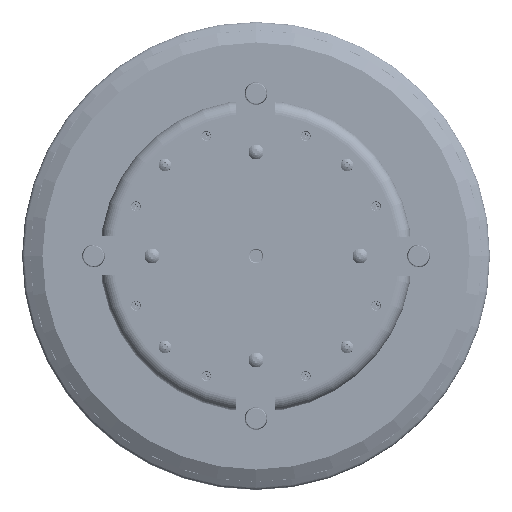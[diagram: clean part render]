
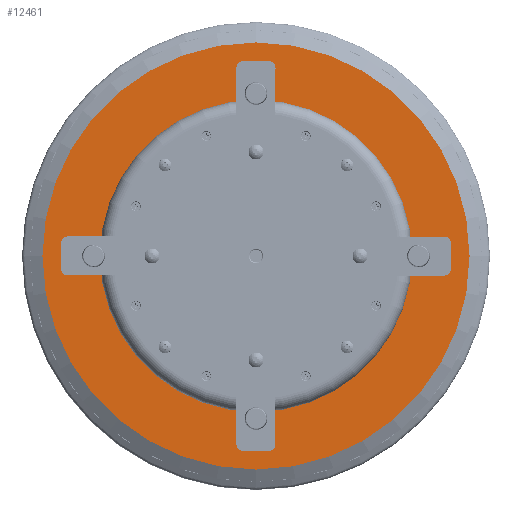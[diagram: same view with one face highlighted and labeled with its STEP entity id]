
A CAD part, front view. The second image highlights one B-rep face of the part: STEP entity #12461.
In plain terms, the highlighted planar face has unit normal (0, -1, 0).
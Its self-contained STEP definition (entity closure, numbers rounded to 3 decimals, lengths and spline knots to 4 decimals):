
#1560=CIRCLE('',#14470,8.2132);
#2520=FACE_OUTER_BOUND('',#3368,.T.);
#3368=EDGE_LOOP('',(#10539));
#5970=VERTEX_POINT('',#30372);
#7550=EDGE_CURVE('',#5970,#5970,#1560,.T.);
#10539=ORIENTED_EDGE('',*,*,#7550,.T.);
#11857=PLANE('',#14473);
#12461=ADVANCED_FACE('',(#2520),#11857,.F.);
#14470=AXIS2_PLACEMENT_3D('',#30373,#17437,#17438);
#14473=AXIS2_PLACEMENT_3D('',#30378,#17444,#17445);
#17437=DIRECTION('center_axis',(0.,-1.,0.));
#17438=DIRECTION('ref_axis',(0.,0.,1.));
#17444=DIRECTION('center_axis',(0.,1.,0.));
#17445=DIRECTION('ref_axis',(0.,0.,1.));
#30372=CARTESIAN_POINT('',(0.,0.,
-8.2132));
#30373=CARTESIAN_POINT('Origin',(0.,0.,0.));
#30378=CARTESIAN_POINT('Origin',(0.,0.,0.));
